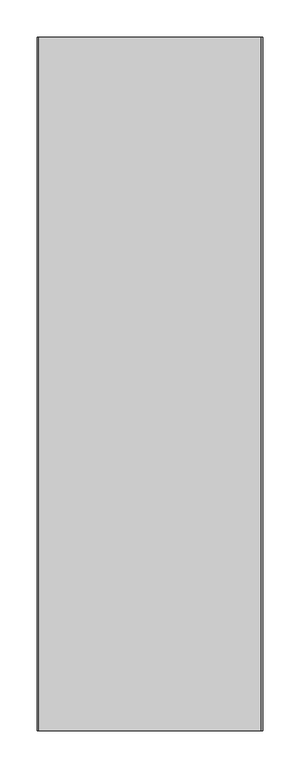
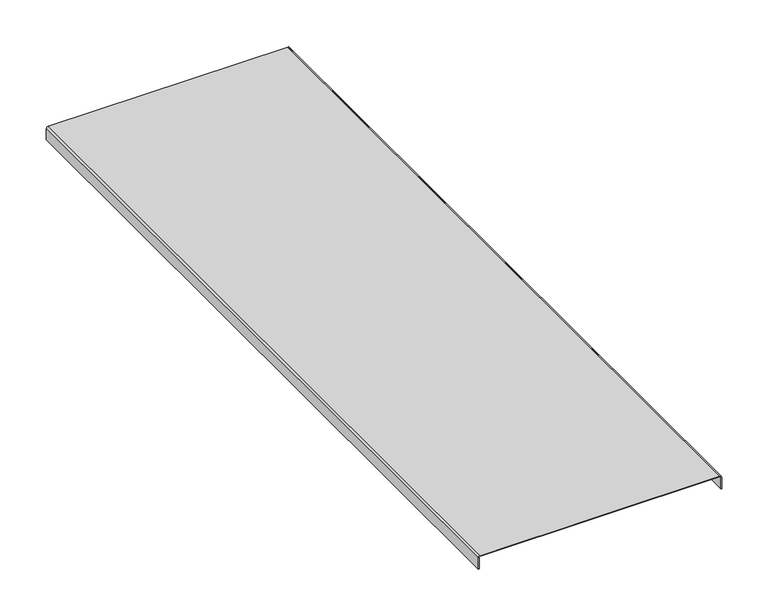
"""IFC4 building model written with IfcOpenShell, lengths in millimetres: proxy geometry, Cable_Tray_Cover_CT_Basorcanal : Basorcanal CT 100X300 (cover)."""

from ifc_helpers import new_model, si_unit, point, frame, frame_2d, origin, place, context, project, spatial, polyline, circle_curve, trimmed, segment, composite_curve, outline, extrude, source, transform, mapped, element, save


def generic_models_1e959e51(model_context):
    return source(origin(), model_context, "Body", "SweptSolid", [
        extrude(outline(composite_curve([segment(trimmed(circle_curve(frame_2d((-1.0, -149.0)), 1.0), [point((-1.0, -150.0))], [point((0.0, -149.0))], True, "CARTESIAN"), True, "CONTINUOUS"), segment(polyline([(0.0, -149.0), (0.0, 149.0)]), True, "CONTINUOUS"), segment(trimmed(circle_curve(frame_2d((-1.0, 149.0)), 1.0), [point((0.0, 149.0))], [point((-1.0, 150.0))], True, "CARTESIAN"), True, "CONTINUOUS"), segment(polyline([(-1.0, 150.0), (-16.0, 150.0), (-16.0, 151.0), (-1.0, 151.0)]), True, "CONTINUOUS"), segment(trimmed(circle_curve(frame_2d((-1.0, 149.0)), 2.0), [point((-1.0, 151.0))], [point((1.0, 149.0))], False, "CARTESIAN"), True, "CONTINUOUS"), segment(polyline([(1.0, 149.0), (1.0, -149.0)]), True, "CONTINUOUS"), segment(trimmed(circle_curve(frame_2d((-1.0, -149.0)), 2.0), [point((1.0, -149.0))], [point((-1.0, -151.0))], False, "CARTESIAN"), True, "CONTINUOUS"), segment(polyline([(-1.0, -151.0), (-16.0, -151.0), (-16.0, -150.0), (-1.0, -150.0)]), True, "CONTINUOUS")], self_intersect=False)), frame((0.0, 0.0, 0.0), z_axis=(0.0, 1.0, 0.0), x_axis=(0.0, 0.0, 1.0)), (0.0, 0.0, 1.0), 929.4),
    ])


if __name__ == "__main__":
    model = new_model("IFC4")
    model_context = context("Model", 3, world=origin())
    ifc_project = project(units=[si_unit("LENGTHUNIT", "METRE", prefix="MILLI")], contexts=[model_context])
    site = spatial("IfcSite", under=ifc_project)
    building = spatial("IfcBuilding", under=site)
    placement = place(None, origin())
    generic_models_shape = generic_models_1e959e51(model_context)
    element("IfcBuildingElementProxy", 1, Name="Cable_Tray_Cover_CT_Basorcanal : Basorcanal CT 100X300 (cover)", ObjectType="Cable_Tray_Cover_CT_Basorcanal : Basorcanal CT 100X300 (cover)", at=placement, inside=building, context=model_context, shape_type="MappedRepresentation", body=[
        mapped(generic_models_shape, transform((0.0, 0.0, 0.0), x_axis=(1.0, 0.0, 0.0), y_axis=(0.0, 1.0, 0.0), z_axis=(0.0, 0.0, 1.0))),
    ])
    save(model, "model.ifc")
